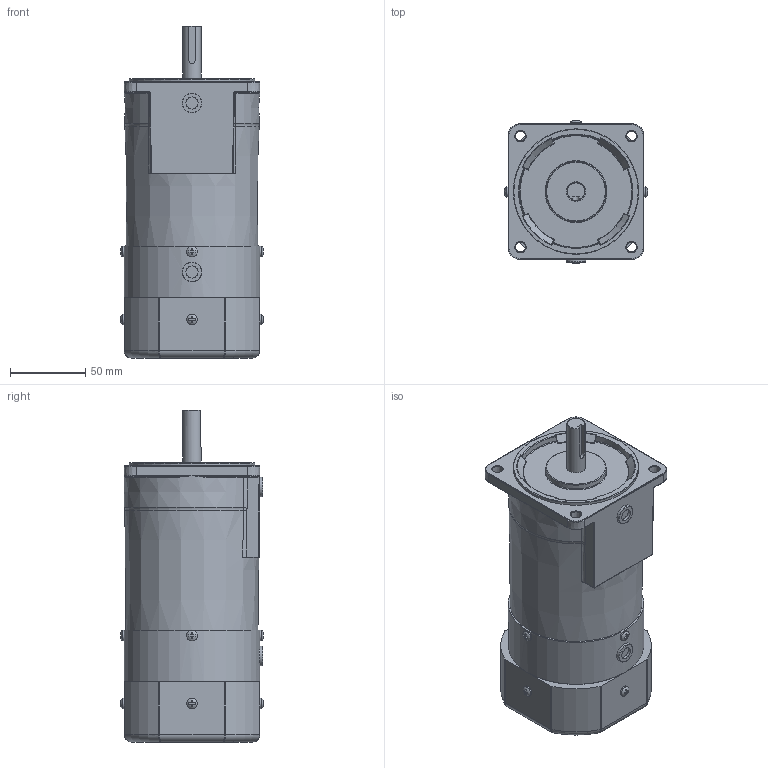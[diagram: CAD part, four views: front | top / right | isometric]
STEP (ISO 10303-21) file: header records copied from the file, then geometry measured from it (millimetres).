
FILE_DESCRIPTION (( 'STEP AP214' ), '1' );
FILE_NAME ('9BDG¤±-90FWH.STEP', '2025-01-13T07:49:35', ( '' ), ( '' ), 'SwSTEP 2.0', 'SolidWorks 2024', '' );
FILE_SCHEMA (( 'AUTOMOTIVE_DESIGN' ));
Length unit declared in the file: millimetre
Products named in the file (1): 9BDGㅁ-90FWH
Bounding box: 95.09 x 95.09 x 220 mm (x, y, z)
Volume: 1198135.1 mm3; surface area: 75881 mm2
Topology: 1 solids, 1 shells, 470 faces, 1205 edges, 756 vertices
Faces by surface type: plane 202, cylinder 145, torus 40, bspline 40, cone 33, sphere 10
Full cylindrical faces by diameter (mm): 6.1 x1, 6.5 x4, 7 x8, 8 x2, 12 x1, 13 x3, 83.1 x1, 90 x1
Entity records: 15641 total; most frequent: CARTESIAN_POINT 4860, ORIENTED_EDGE 2224, DIRECTION 2196, EDGE_CURVE 1112, AXIS2_PLACEMENT_3D 852, VERTEX_POINT 734, EDGE_LOOP 568, FACE_OUTER_BOUND 504
